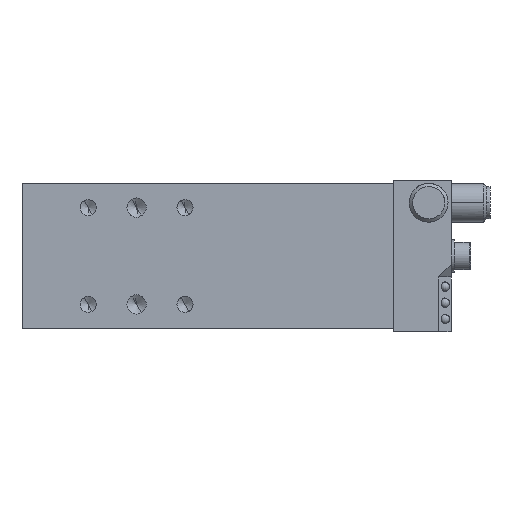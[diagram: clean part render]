
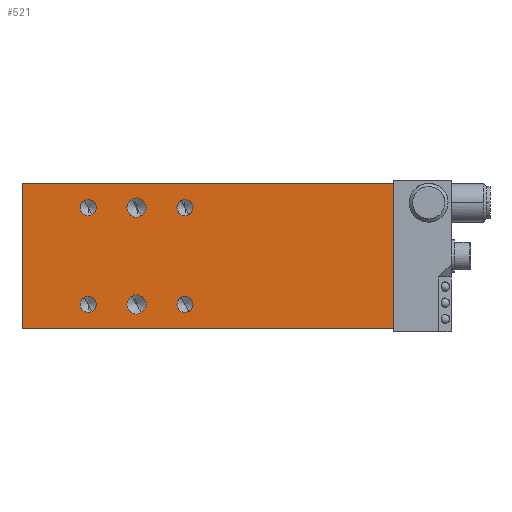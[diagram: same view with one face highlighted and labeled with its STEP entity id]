
A CAD part, front view. The second image highlights one B-rep face of the part: STEP entity #521.
In plain terms, the highlighted planar face has unit normal (0, -1, 0).
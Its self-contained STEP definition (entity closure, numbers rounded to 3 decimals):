
#377=AXIS2_PLACEMENT_3D('Plane Axis2P3D',#374,#375,#376) ;
#415=AXIS2_PLACEMENT_3D('Circle Axis2P3D',#413,#414,$) ;
#424=AXIS2_PLACEMENT_3D('Circle Axis2P3D',#422,#423,$) ;
#433=AXIS2_PLACEMENT_3D('Circle Axis2P3D',#431,#432,$) ;
#442=AXIS2_PLACEMENT_3D('Circle Axis2P3D',#440,#441,$) ;
#451=AXIS2_PLACEMENT_3D('Circle Axis2P3D',#449,#450,$) ;
#460=AXIS2_PLACEMENT_3D('Circle Axis2P3D',#458,#459,$) ;
#469=AXIS2_PLACEMENT_3D('Circle Axis2P3D',#467,#468,$) ;
#478=AXIS2_PLACEMENT_3D('Circle Axis2P3D',#476,#477,$) ;
#487=AXIS2_PLACEMENT_3D('Circle Axis2P3D',#485,#486,$) ;
#496=AXIS2_PLACEMENT_3D('Circle Axis2P3D',#494,#495,$) ;
#505=AXIS2_PLACEMENT_3D('Circle Axis2P3D',#503,#504,$) ;
#514=AXIS2_PLACEMENT_3D('Circle Axis2P3D',#512,#513,$) ;
#374=CARTESIAN_POINT('Axis2P3D Location',(-35.5,-195.,-22.5)) ;
#379=CARTESIAN_POINT('Line Origine',(22.,-195.,22.5)) ;
#383=CARTESIAN_POINT('Vertex',(-35.5,-195.,22.5)) ;
#385=CARTESIAN_POINT('Vertex',(79.5,-195.,22.5)) ;
#388=CARTESIAN_POINT('Line Origine',(-35.5,-195.,0.)) ;
#392=CARTESIAN_POINT('Vertex',(-35.5,-195.,-22.5)) ;
#395=CARTESIAN_POINT('Line Origine',(22.,-195.,-22.5)) ;
#399=CARTESIAN_POINT('Vertex',(79.5,-195.,-22.5)) ;
#402=CARTESIAN_POINT('Line Origine',(79.5,-195.,0.)) ;
#413=CARTESIAN_POINT('Axis2P3D Location',(15.,-195.,15.)) ;
#417=CARTESIAN_POINT('Vertex',(17.5,-195.,15.)) ;
#419=CARTESIAN_POINT('Vertex',(12.5,-195.,15.)) ;
#422=CARTESIAN_POINT('Axis2P3D Location',(15.,-195.,15.)) ;
#431=CARTESIAN_POINT('Axis2P3D Location',(-15.,-195.,15.)) ;
#435=CARTESIAN_POINT('Vertex',(-12.5,-195.,15.)) ;
#437=CARTESIAN_POINT('Vertex',(-17.5,-195.,15.)) ;
#440=CARTESIAN_POINT('Axis2P3D Location',(-15.,-195.,15.)) ;
#449=CARTESIAN_POINT('Axis2P3D Location',(0.,-195.,15.)) ;
#453=CARTESIAN_POINT('Vertex',(3.,-195.,15.)) ;
#455=CARTESIAN_POINT('Vertex',(-3.,-195.,15.)) ;
#458=CARTESIAN_POINT('Axis2P3D Location',(0.,-195.,15.)) ;
#467=CARTESIAN_POINT('Axis2P3D Location',(15.,-195.,-15.)) ;
#471=CARTESIAN_POINT('Vertex',(17.5,-195.,-15.)) ;
#473=CARTESIAN_POINT('Vertex',(12.5,-195.,-15.)) ;
#476=CARTESIAN_POINT('Axis2P3D Location',(15.,-195.,-15.)) ;
#485=CARTESIAN_POINT('Axis2P3D Location',(-15.,-195.,-15.)) ;
#489=CARTESIAN_POINT('Vertex',(-12.5,-195.,-15.)) ;
#491=CARTESIAN_POINT('Vertex',(-17.5,-195.,-15.)) ;
#494=CARTESIAN_POINT('Axis2P3D Location',(-15.,-195.,-15.)) ;
#503=CARTESIAN_POINT('Axis2P3D Location',(0.,-195.,-15.)) ;
#507=CARTESIAN_POINT('Vertex',(3.,-195.,-15.)) ;
#509=CARTESIAN_POINT('Vertex',(-3.,-195.,-15.)) ;
#512=CARTESIAN_POINT('Axis2P3D Location',(0.,-195.,-15.)) ;
#375=DIRECTION('Axis2P3D Direction',(0.,1.,0.)) ;
#376=DIRECTION('Axis2P3D XDirection',(0.,0.,1.)) ;
#380=DIRECTION('Vector Direction',(1.,0.,0.)) ;
#389=DIRECTION('Vector Direction',(0.,0.,1.)) ;
#396=DIRECTION('Vector Direction',(1.,0.,0.)) ;
#403=DIRECTION('Vector Direction',(0.,0.,1.)) ;
#414=DIRECTION('Axis2P3D Direction',(0.,1.,0.)) ;
#423=DIRECTION('Axis2P3D Direction',(0.,1.,0.)) ;
#432=DIRECTION('Axis2P3D Direction',(0.,1.,0.)) ;
#441=DIRECTION('Axis2P3D Direction',(0.,1.,0.)) ;
#450=DIRECTION('Axis2P3D Direction',(0.,1.,0.)) ;
#459=DIRECTION('Axis2P3D Direction',(0.,1.,0.)) ;
#468=DIRECTION('Axis2P3D Direction',(0.,1.,0.)) ;
#477=DIRECTION('Axis2P3D Direction',(0.,1.,0.)) ;
#486=DIRECTION('Axis2P3D Direction',(0.,1.,0.)) ;
#495=DIRECTION('Axis2P3D Direction',(0.,1.,0.)) ;
#504=DIRECTION('Axis2P3D Direction',(0.,1.,0.)) ;
#513=DIRECTION('Axis2P3D Direction',(0.,1.,0.)) ;
#381=VECTOR('Line Direction',#380,1.) ;
#390=VECTOR('Line Direction',#389,1.) ;
#397=VECTOR('Line Direction',#396,1.) ;
#404=VECTOR('Line Direction',#403,1.) ;
#408=ORIENTED_EDGE('',*,*,#387,.F.) ;
#409=ORIENTED_EDGE('',*,*,#394,.T.) ;
#410=ORIENTED_EDGE('',*,*,#401,.T.) ;
#411=ORIENTED_EDGE('',*,*,#406,.F.) ;
#428=ORIENTED_EDGE('',*,*,#421,.F.) ;
#429=ORIENTED_EDGE('',*,*,#426,.F.) ;
#446=ORIENTED_EDGE('',*,*,#439,.F.) ;
#447=ORIENTED_EDGE('',*,*,#444,.F.) ;
#464=ORIENTED_EDGE('',*,*,#457,.F.) ;
#465=ORIENTED_EDGE('',*,*,#462,.F.) ;
#482=ORIENTED_EDGE('',*,*,#475,.F.) ;
#483=ORIENTED_EDGE('',*,*,#480,.F.) ;
#500=ORIENTED_EDGE('',*,*,#493,.F.) ;
#501=ORIENTED_EDGE('',*,*,#498,.F.) ;
#518=ORIENTED_EDGE('',*,*,#511,.F.) ;
#519=ORIENTED_EDGE('',*,*,#516,.F.) ;
#430=FACE_BOUND('',#427,.T.) ;
#448=FACE_BOUND('',#445,.T.) ;
#466=FACE_BOUND('',#463,.T.) ;
#484=FACE_BOUND('',#481,.T.) ;
#502=FACE_BOUND('',#499,.T.) ;
#520=FACE_BOUND('',#517,.T.) ;
#521=ADVANCED_FACE('PartBody',(#412,#430,#448,#466,#484,#502,#520),#378,.F.) ;
#416=CIRCLE('generated circle',#415,2.5) ;
#425=CIRCLE('generated circle',#424,2.5) ;
#434=CIRCLE('generated circle',#433,2.5) ;
#443=CIRCLE('generated circle',#442,2.5) ;
#452=CIRCLE('generated circle',#451,3.) ;
#461=CIRCLE('generated circle',#460,3.) ;
#470=CIRCLE('generated circle',#469,2.5) ;
#479=CIRCLE('generated circle',#478,2.5) ;
#488=CIRCLE('generated circle',#487,2.5) ;
#497=CIRCLE('generated circle',#496,2.5) ;
#506=CIRCLE('generated circle',#505,3.) ;
#515=CIRCLE('generated circle',#514,3.) ;
#387=EDGE_CURVE('',#384,#386,#382,.T.) ;
#394=EDGE_CURVE('',#384,#393,#391,.F.) ;
#401=EDGE_CURVE('',#393,#400,#398,.T.) ;
#406=EDGE_CURVE('',#386,#400,#405,.F.) ;
#421=EDGE_CURVE('',#418,#420,#416,.F.) ;
#426=EDGE_CURVE('',#420,#418,#425,.F.) ;
#439=EDGE_CURVE('',#436,#438,#434,.F.) ;
#444=EDGE_CURVE('',#438,#436,#443,.F.) ;
#457=EDGE_CURVE('',#454,#456,#452,.F.) ;
#462=EDGE_CURVE('',#456,#454,#461,.F.) ;
#475=EDGE_CURVE('',#472,#474,#470,.F.) ;
#480=EDGE_CURVE('',#474,#472,#479,.F.) ;
#493=EDGE_CURVE('',#490,#492,#488,.F.) ;
#498=EDGE_CURVE('',#492,#490,#497,.F.) ;
#511=EDGE_CURVE('',#508,#510,#506,.F.) ;
#516=EDGE_CURVE('',#510,#508,#515,.F.) ;
#407=EDGE_LOOP('',(#408,#409,#410,#411)) ;
#427=EDGE_LOOP('',(#428,#429)) ;
#445=EDGE_LOOP('',(#446,#447)) ;
#463=EDGE_LOOP('',(#464,#465)) ;
#481=EDGE_LOOP('',(#482,#483)) ;
#499=EDGE_LOOP('',(#500,#501)) ;
#517=EDGE_LOOP('',(#518,#519)) ;
#412=FACE_OUTER_BOUND('',#407,.T.) ;
#382=LINE('Line',#379,#381) ;
#391=LINE('Line',#388,#390) ;
#398=LINE('Line',#395,#397) ;
#405=LINE('Line',#402,#404) ;
#378=PLANE('Plane',#377) ;
#384=VERTEX_POINT('',#383) ;
#386=VERTEX_POINT('',#385) ;
#393=VERTEX_POINT('',#392) ;
#400=VERTEX_POINT('',#399) ;
#418=VERTEX_POINT('',#417) ;
#420=VERTEX_POINT('',#419) ;
#436=VERTEX_POINT('',#435) ;
#438=VERTEX_POINT('',#437) ;
#454=VERTEX_POINT('',#453) ;
#456=VERTEX_POINT('',#455) ;
#472=VERTEX_POINT('',#471) ;
#474=VERTEX_POINT('',#473) ;
#490=VERTEX_POINT('',#489) ;
#492=VERTEX_POINT('',#491) ;
#508=VERTEX_POINT('',#507) ;
#510=VERTEX_POINT('',#509) ;
